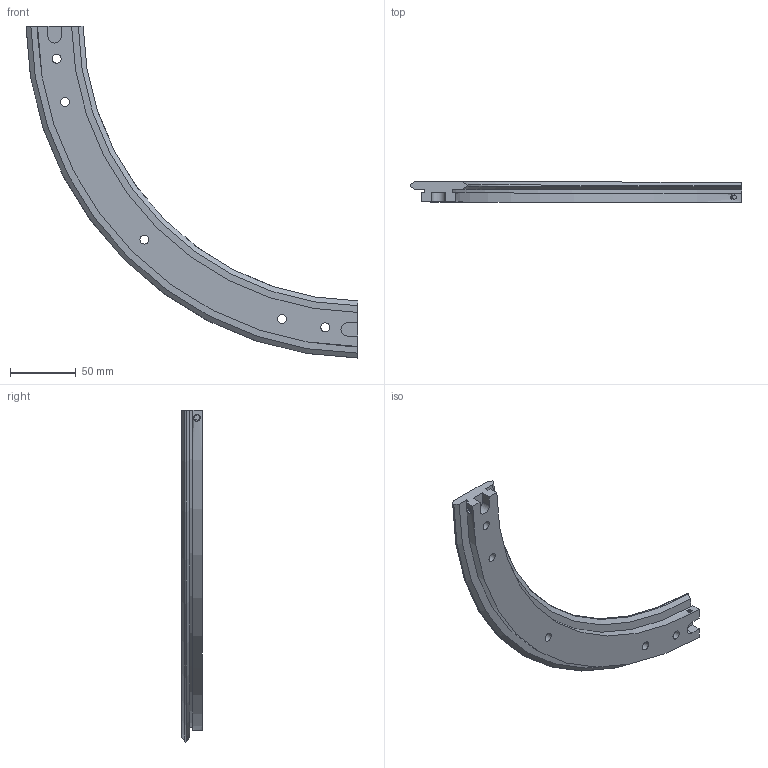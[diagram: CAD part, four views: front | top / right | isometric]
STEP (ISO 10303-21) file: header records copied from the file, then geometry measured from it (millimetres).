
FILE_DESCRIPTION( ( 'STEP AP203' ), '1' );
FILE_NAME( 'p:/temp/worker_25/temp/exporttempdir_3224_198_QCUqB/format_0/TR44 468 R90.stp', '2021-09-17T07:40:41', ( 'License CC BY-ND 4.0' ), ( 'CADENAS' ), ' ', 'PARTsolutions', ' ' );
FILE_SCHEMA( ( 'CONFIG_CONTROL_DESIGN' ) );
Length unit declared in the file: millimetre
Products named in the file (1): _TR44 468 R90
Bounding box: 253.28 x 15.5 x 253.28 mm (x, y, z)
Volume: 165879.6 mm3; surface area: 47104.7 mm2
Topology: 1 solids, 1 shells, 77 faces, 186 edges, 124 vertices
Faces by surface type: plane 51, cylinder 20, cone 4, torus 2
Full cylindrical faces by diameter (mm): 5 x2, 6.8 x5, 11 x5
Entity records: 2440 total; most frequent: CARTESIAN_POINT 592, DIRECTION 366, ORIENTED_EDGE 348, EDGE_CURVE 174, AXIS2_PLACEMENT_3D 130, VERTEX_POINT 124, EDGE_LOOP 112, LINE 106
